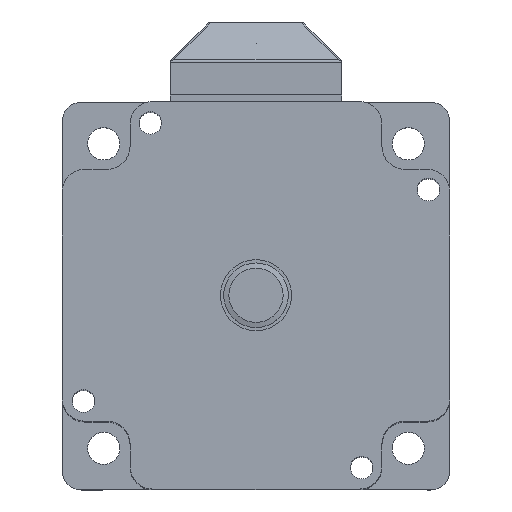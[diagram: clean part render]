
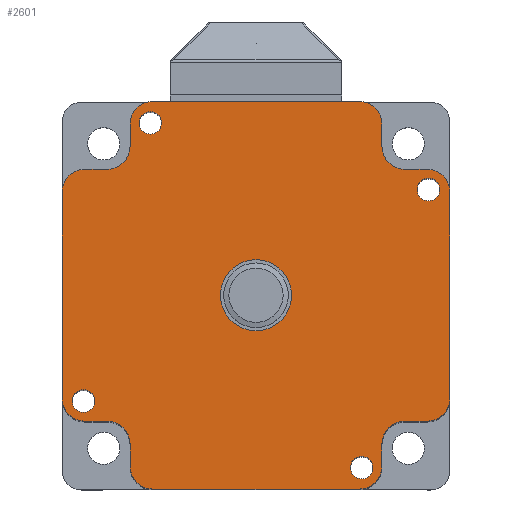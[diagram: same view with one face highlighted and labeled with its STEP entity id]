
A CAD part, top view. The second image highlights one B-rep face of the part: STEP entity #2601.
In plain terms, the highlighted planar face has unit normal (0, 0, 1).
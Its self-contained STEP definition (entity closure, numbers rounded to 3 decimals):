
#1659=CARTESIAN_POINT('',(60.,46.,79.));
#1660=VERTEX_POINT('',#1659);
#1667=CARTESIAN_POINT('',(56.5,49.5,79.));
#1668=VERTEX_POINT('',#1667);
#1669=CARTESIAN_POINT('',(56.5,46.,79.));
#1670=DIRECTION('',(0.,1.,0.));
#1671=DIRECTION('',(0.,0.,-1.));
#1672=AXIS2_PLACEMENT_3D('',#1669,#1671,#1670);
#1673=CIRCLE('',#1672,3.5);
#1674=EDGE_CURVE('',#1668,#1660,#1673,.T.);
#1698=CARTESIAN_POINT('',(60.,14.,79.));
#1699=VERTEX_POINT('',#1698);
#1706=CARTESIAN_POINT('',(60.,46.,79.));
#1707=DIRECTION('',(0.,-1.,0.));
#1708=VECTOR('',#1707,32.);
#1709=LINE('',#1706,#1708);
#1710=EDGE_CURVE('',#1660,#1699,#1709,.T.);
#1730=CARTESIAN_POINT('',(56.5,10.5,79.));
#1731=VERTEX_POINT('',#1730);
#1738=CARTESIAN_POINT('',(56.5,14.,79.));
#1739=DIRECTION('',(1.,0.,0.));
#1740=DIRECTION('',(-0.,0.,-1.));
#1741=AXIS2_PLACEMENT_3D('',#1738,#1740,#1739);
#1742=CIRCLE('',#1741,3.5);
#1743=EDGE_CURVE('',#1699,#1731,#1742,.T.);
#1762=CARTESIAN_POINT('',(53.,10.5,79.));
#1763=VERTEX_POINT('',#1762);
#1770=CARTESIAN_POINT('',(56.5,10.5,79.));
#1771=DIRECTION('',(-1.,0.,0.));
#1772=VECTOR('',#1771,3.5);
#1773=LINE('',#1770,#1772);
#1774=EDGE_CURVE('',#1731,#1763,#1773,.T.);
#1794=CARTESIAN_POINT('',(49.5,7.,79.));
#1795=VERTEX_POINT('',#1794);
#1802=CARTESIAN_POINT('',(53.,7.,79.));
#1803=DIRECTION('',(0.,1.,0.));
#1804=DIRECTION('',(0.,0.,1.));
#1805=AXIS2_PLACEMENT_3D('',#1802,#1804,#1803);
#1806=CIRCLE('',#1805,3.5);
#1807=EDGE_CURVE('',#1763,#1795,#1806,.T.);
#1826=CARTESIAN_POINT('',(49.5,3.5,79.));
#1827=VERTEX_POINT('',#1826);
#1834=CARTESIAN_POINT('',(49.5,7.,79.));
#1835=DIRECTION('',(0.,-1.,0.));
#1836=VECTOR('',#1835,3.5);
#1837=LINE('',#1834,#1836);
#1838=EDGE_CURVE('',#1795,#1827,#1837,.T.);
#1858=CARTESIAN_POINT('',(46.,0.,79.));
#1859=VERTEX_POINT('',#1858);
#1866=CARTESIAN_POINT('',(46.,3.5,79.));
#1867=DIRECTION('',(1.,0.,0.));
#1868=DIRECTION('',(-0.,0.,-1.));
#1869=AXIS2_PLACEMENT_3D('',#1866,#1868,#1867);
#1870=CIRCLE('',#1869,3.5);
#1871=EDGE_CURVE('',#1827,#1859,#1870,.T.);
#1890=CARTESIAN_POINT('',(14.,0.,79.));
#1891=VERTEX_POINT('',#1890);
#1898=CARTESIAN_POINT('',(46.,0.,79.));
#1899=DIRECTION('',(-1.,0.,0.));
#1900=VECTOR('',#1899,32.);
#1901=LINE('',#1898,#1900);
#1902=EDGE_CURVE('',#1859,#1891,#1901,.T.);
#1922=CARTESIAN_POINT('',(10.5,3.5,79.));
#1923=VERTEX_POINT('',#1922);
#1930=CARTESIAN_POINT('',(14.,3.5,79.));
#1931=DIRECTION('',(0.,-1.,0.));
#1932=DIRECTION('',(0.,0.,-1.));
#1933=AXIS2_PLACEMENT_3D('',#1930,#1932,#1931);
#1934=CIRCLE('',#1933,3.5);
#1935=EDGE_CURVE('',#1891,#1923,#1934,.T.);
#1954=CARTESIAN_POINT('',(10.5,7.,79.));
#1955=VERTEX_POINT('',#1954);
#1962=CARTESIAN_POINT('',(10.5,3.5,79.));
#1963=DIRECTION('',(0.,1.,0.));
#1964=VECTOR('',#1963,3.5);
#1965=LINE('',#1962,#1964);
#1966=EDGE_CURVE('',#1923,#1955,#1965,.T.);
#1986=CARTESIAN_POINT('',(7.,10.5,79.));
#1987=VERTEX_POINT('',#1986);
#1994=CARTESIAN_POINT('',(7.,7.,79.));
#1995=DIRECTION('',(1.,0.,0.));
#1996=DIRECTION('',(0.,0.,1.));
#1997=AXIS2_PLACEMENT_3D('',#1994,#1996,#1995);
#1998=CIRCLE('',#1997,3.5);
#1999=EDGE_CURVE('',#1955,#1987,#1998,.T.);
#2018=CARTESIAN_POINT('',(3.5,10.5,79.));
#2019=VERTEX_POINT('',#2018);
#2026=CARTESIAN_POINT('',(7.,10.5,79.));
#2027=DIRECTION('',(-1.,0.,0.));
#2028=VECTOR('',#2027,3.5);
#2029=LINE('',#2026,#2028);
#2030=EDGE_CURVE('',#1987,#2019,#2029,.T.);
#2050=CARTESIAN_POINT('',(0.,14.,79.));
#2051=VERTEX_POINT('',#2050);
#2058=CARTESIAN_POINT('',(3.5,14.,79.));
#2059=DIRECTION('',(0.,-1.,0.));
#2060=DIRECTION('',(0.,0.,-1.));
#2061=AXIS2_PLACEMENT_3D('',#2058,#2060,#2059);
#2062=CIRCLE('',#2061,3.5);
#2063=EDGE_CURVE('',#2019,#2051,#2062,.T.);
#2082=CARTESIAN_POINT('',(0.,46.,79.));
#2083=VERTEX_POINT('',#2082);
#2090=CARTESIAN_POINT('',(0.,14.,79.));
#2091=DIRECTION('',(0.,1.,0.));
#2092=VECTOR('',#2091,32.);
#2093=LINE('',#2090,#2092);
#2094=EDGE_CURVE('',#2051,#2083,#2093,.T.);
#2114=CARTESIAN_POINT('',(3.5,49.5,79.));
#2115=VERTEX_POINT('',#2114);
#2122=CARTESIAN_POINT('',(3.5,46.,79.));
#2123=DIRECTION('',(-1.,0.,0.));
#2124=DIRECTION('',(0.,0.,-1.));
#2125=AXIS2_PLACEMENT_3D('',#2122,#2124,#2123);
#2126=CIRCLE('',#2125,3.5);
#2127=EDGE_CURVE('',#2083,#2115,#2126,.T.);
#2146=CARTESIAN_POINT('',(7.,49.5,79.));
#2147=VERTEX_POINT('',#2146);
#2154=CARTESIAN_POINT('',(3.5,49.5,79.));
#2155=DIRECTION('',(1.,0.,0.));
#2156=VECTOR('',#2155,3.5);
#2157=LINE('',#2154,#2156);
#2158=EDGE_CURVE('',#2115,#2147,#2157,.T.);
#2178=CARTESIAN_POINT('',(10.5,53.,79.));
#2179=VERTEX_POINT('',#2178);
#2186=CARTESIAN_POINT('',(7.,53.,79.));
#2187=DIRECTION('',(0.,-1.,0.));
#2188=DIRECTION('',(0.,0.,1.));
#2189=AXIS2_PLACEMENT_3D('',#2186,#2188,#2187);
#2190=CIRCLE('',#2189,3.5);
#2191=EDGE_CURVE('',#2147,#2179,#2190,.T.);
#2210=CARTESIAN_POINT('',(10.5,56.5,79.));
#2211=VERTEX_POINT('',#2210);
#2218=CARTESIAN_POINT('',(10.5,53.,79.));
#2219=DIRECTION('',(0.,1.,0.));
#2220=VECTOR('',#2219,3.5);
#2221=LINE('',#2218,#2220);
#2222=EDGE_CURVE('',#2179,#2211,#2221,.T.);
#2242=CARTESIAN_POINT('',(14.,60.,79.));
#2243=VERTEX_POINT('',#2242);
#2250=CARTESIAN_POINT('',(14.,56.5,79.));
#2251=DIRECTION('',(-1.,0.,0.));
#2252=DIRECTION('',(0.,0.,-1.));
#2253=AXIS2_PLACEMENT_3D('',#2250,#2252,#2251);
#2254=CIRCLE('',#2253,3.5);
#2255=EDGE_CURVE('',#2211,#2243,#2254,.T.);
#2274=CARTESIAN_POINT('',(46.,60.,79.));
#2275=VERTEX_POINT('',#2274);
#2282=CARTESIAN_POINT('',(14.,60.,79.));
#2283=DIRECTION('',(1.,0.,0.));
#2284=VECTOR('',#2283,32.);
#2285=LINE('',#2282,#2284);
#2286=EDGE_CURVE('',#2243,#2275,#2285,.T.);
#2306=CARTESIAN_POINT('',(49.5,56.5,79.));
#2307=VERTEX_POINT('',#2306);
#2314=CARTESIAN_POINT('',(46.,56.5,79.));
#2315=DIRECTION('',(0.,1.,0.));
#2316=DIRECTION('',(0.,0.,-1.));
#2317=AXIS2_PLACEMENT_3D('',#2314,#2316,#2315);
#2318=CIRCLE('',#2317,3.5);
#2319=EDGE_CURVE('',#2275,#2307,#2318,.T.);
#2338=CARTESIAN_POINT('',(49.5,53.,79.));
#2339=VERTEX_POINT('',#2338);
#2346=CARTESIAN_POINT('',(49.5,56.5,79.));
#2347=DIRECTION('',(0.,-1.,0.));
#2348=VECTOR('',#2347,3.5);
#2349=LINE('',#2346,#2348);
#2350=EDGE_CURVE('',#2307,#2339,#2349,.T.);
#2370=CARTESIAN_POINT('',(53.,49.5,79.));
#2371=VERTEX_POINT('',#2370);
#2378=CARTESIAN_POINT('',(53.,53.,79.));
#2379=DIRECTION('',(-1.,0.,0.));
#2380=DIRECTION('',(-0.,0.,1.));
#2381=AXIS2_PLACEMENT_3D('',#2378,#2380,#2379);
#2382=CIRCLE('',#2381,3.5);
#2383=EDGE_CURVE('',#2339,#2371,#2382,.T.);
#2401=CARTESIAN_POINT('',(53.,49.5,79.));
#2402=DIRECTION('',(1.,0.,0.));
#2403=VECTOR('',#2402,3.5);
#2404=LINE('',#2401,#2403);
#2405=EDGE_CURVE('',#2371,#1668,#2404,.T.);
#2416=CARTESIAN_POINT('',(30.,35.5,79.));
#2417=VERTEX_POINT('',#2416);
#2418=CARTESIAN_POINT('',(30.,30.,79.));
#2419=DIRECTION('',(0.,1.,0.));
#2420=DIRECTION('',(0.,0.,-1.));
#2421=AXIS2_PLACEMENT_3D('',#2418,#2420,#2419);
#2422=CIRCLE('',#2421,5.5);
#2423=EDGE_CURVE('',#2417,#2417,#2422,.T.);
#2523=CARTESIAN_POINT('',(30.,30.,79.));
#2524=DIRECTION('',(1.,0.,0.));
#2525=DIRECTION('',(0.,0.,-1.));
#2526=AXIS2_PLACEMENT_3D('',#2523,#2525,#2524);
#2527=PLANE('',#2526);
#2528=ORIENTED_EDGE('',*,*,#1674,.T.);
#2529=ORIENTED_EDGE('',*,*,#1710,.T.);
#2530=ORIENTED_EDGE('',*,*,#1743,.T.);
#2531=ORIENTED_EDGE('',*,*,#1774,.T.);
#2532=ORIENTED_EDGE('',*,*,#1807,.T.);
#2533=ORIENTED_EDGE('',*,*,#1838,.T.);
#2534=ORIENTED_EDGE('',*,*,#1871,.T.);
#2535=ORIENTED_EDGE('',*,*,#1902,.T.);
#2536=ORIENTED_EDGE('',*,*,#1935,.T.);
#2537=ORIENTED_EDGE('',*,*,#1966,.T.);
#2538=ORIENTED_EDGE('',*,*,#1999,.T.);
#2539=ORIENTED_EDGE('',*,*,#2030,.T.);
#2540=ORIENTED_EDGE('',*,*,#2063,.T.);
#2541=ORIENTED_EDGE('',*,*,#2094,.T.);
#2542=ORIENTED_EDGE('',*,*,#2127,.T.);
#2543=ORIENTED_EDGE('',*,*,#2158,.T.);
#2544=ORIENTED_EDGE('',*,*,#2191,.T.);
#2545=ORIENTED_EDGE('',*,*,#2222,.T.);
#2546=ORIENTED_EDGE('',*,*,#2255,.T.);
#2547=ORIENTED_EDGE('',*,*,#2286,.T.);
#2548=ORIENTED_EDGE('',*,*,#2319,.T.);
#2549=ORIENTED_EDGE('',*,*,#2350,.T.);
#2550=ORIENTED_EDGE('',*,*,#2383,.T.);
#2551=ORIENTED_EDGE('',*,*,#2405,.T.);
#2552=EDGE_LOOP('',(#2528,#2529,#2530,#2531,#2532,#2533,#2534,#2535,#2536,#2537,#2538,#2539,#2540,#2541,#2542,#2543,#2544,#2545,#2546,#2547,#2548,#2549,#2550,#2551));
#2553=FACE_OUTER_BOUND('',#2552,.F.);
#2554=ORIENTED_EDGE('',*,*,#2423,.F.);
#2555=EDGE_LOOP('',(#2554));
#2556=FACE_BOUND('',#2555,.F.);
#2557=CARTESIAN_POINT('',(56.688,48.104,79.));
#2558=VERTEX_POINT('',#2557);
#2559=CARTESIAN_POINT('',(56.688,46.354,79.));
#2560=DIRECTION('',(0.,1.,0.));
#2561=DIRECTION('',(0.,0.,-1.));
#2562=AXIS2_PLACEMENT_3D('',#2559,#2561,#2560);
#2563=CIRCLE('',#2562,1.75);
#2564=EDGE_CURVE('',#2558,#2558,#2563,.T.);
#2565=ORIENTED_EDGE('E309',*,*,#2564,.F.);
#2566=EDGE_LOOP('',(#2565));
#2567=FACE_BOUND('',#2566,.F.);
#2568=CARTESIAN_POINT('',(46.354,5.062,79.));
#2569=VERTEX_POINT('',#2568);
#2570=CARTESIAN_POINT('',(46.354,3.312,79.));
#2571=DIRECTION('',(0.,1.,-0.));
#2572=DIRECTION('',(0.,0.,-1.));
#2573=AXIS2_PLACEMENT_3D('',#2570,#2572,#2571);
#2574=CIRCLE('',#2573,1.75);
#2575=EDGE_CURVE('',#2569,#2569,#2574,.T.);
#2576=ORIENTED_EDGE('E311',*,*,#2575,.F.);
#2577=EDGE_LOOP('',(#2576));
#2578=FACE_BOUND('',#2577,.F.);
#2579=CARTESIAN_POINT('',(13.646,58.438,79.));
#2580=VERTEX_POINT('',#2579);
#2581=CARTESIAN_POINT('',(13.646,56.688,79.));
#2582=DIRECTION('',(0.,1.,0.));
#2583=DIRECTION('',(0.,0.,-1.));
#2584=AXIS2_PLACEMENT_3D('',#2581,#2583,#2582);
#2585=CIRCLE('',#2584,1.75);
#2586=EDGE_CURVE('',#2580,#2580,#2585,.T.);
#2587=ORIENTED_EDGE('E312',*,*,#2586,.F.);
#2588=EDGE_LOOP('',(#2587));
#2589=FACE_BOUND('',#2588,.F.);
#2590=CARTESIAN_POINT('',(3.312,15.396,79.));
#2591=VERTEX_POINT('',#2590);
#2592=CARTESIAN_POINT('',(3.312,13.646,79.));
#2593=DIRECTION('',(-0.,1.,-0.));
#2594=DIRECTION('',(0.,0.,-1.));
#2595=AXIS2_PLACEMENT_3D('',#2592,#2594,#2593);
#2596=CIRCLE('',#2595,1.75);
#2597=EDGE_CURVE('',#2591,#2591,#2596,.T.);
#2598=ORIENTED_EDGE('E310',*,*,#2597,.F.);
#2599=EDGE_LOOP('',(#2598));
#2600=FACE_BOUND('',#2599,.F.);
#2601=ADVANCED_FACE('F89',(#2553,#2556,#2567,#2578,#2589,#2600),#2527,.F.);
